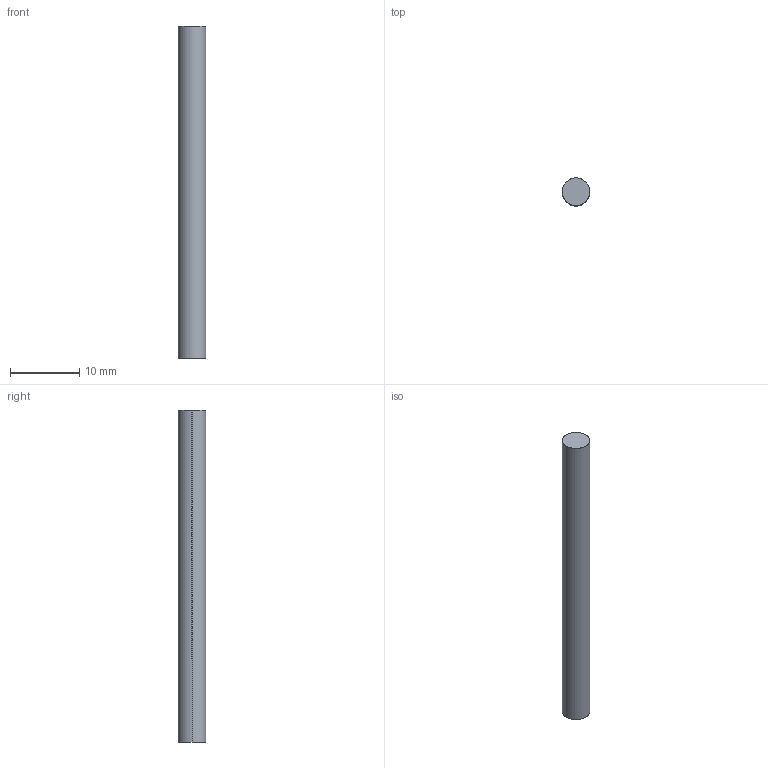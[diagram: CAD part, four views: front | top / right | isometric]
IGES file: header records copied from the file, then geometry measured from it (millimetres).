
Start section: SolidWorks IGES file using analytic representation for surfaces
Global section: file name: Z:\Mes documents\ATAO iges\Gamme CL\CL 438\438.030.010.IGS; native system: SolidWorks 2008; preprocessor: SolidWorks 2008; author: cbrechard; date: 110628.183248; units: millimetre
Bounding box: 4 x 4 x 48 mm (x, y, z)
Surface area: 628.3 mm2 (no closed solid volume)
Topology: 0 solids, 0 shells, 4 faces, 72 edges, 72 vertices
Faces by surface type: revolution 2, bspline 2
